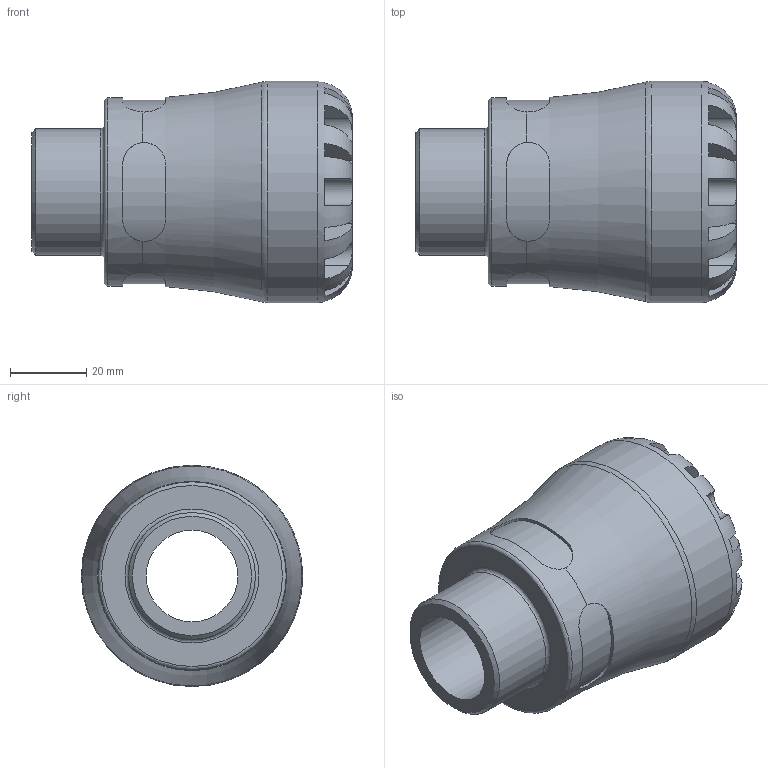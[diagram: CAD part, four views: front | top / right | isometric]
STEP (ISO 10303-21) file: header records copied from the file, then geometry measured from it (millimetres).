
FILE_DESCRIPTION(/* description */ ('PLASSON MALE ADAPTOR 32X1" SERIES 1'),/* implementation_level */ '2;1');
FILE_NAME(/* name */ 'C:\Dropbox\KIMPROJECTS-Inventor\99-16-3568-Processing\S1\1002\100200032010_190200032010.ipt.stp',/* time_stamp */ '2017-07-27T14:39:24+03:00',/* author */ ('KIM'),/* organization */ (''),/* preprocessor_version */ 'ST-DEVELOPER v15.6',/* originating_system */ 'Autodesk Inventor 2015',/* authorisation */ '');
FILE_SCHEMA (('AUTOMOTIVE_DESIGN { 1 0 10303 214 3 1 1 }'));
Length unit declared in the file: millimetre
Products named in the file (1): 100200032010_190200032010
Bounding box: 84 x 58 x 58 mm (x, y, z)
Volume: 100626 mm3; surface area: 25165.8 mm2
Topology: 1 solids, 1 shells, 100 faces, 257 edges, 161 vertices
Faces by surface type: plane 60, cylinder 33, torus 5, cone 2
Full cylindrical faces by diameter (mm): 24 x1, 32 x1, 33.249 x1, 49.3 x1, 58 x1
Entity records: 3770 total; most frequent: CARTESIAN_POINT 1451, ORIENTED_EDGE 484, DIRECTION 462, EDGE_CURVE 242, AXIS2_PLACEMENT_3D 191, VERTEX_POINT 158, EDGE_LOOP 116, FACE_OUTER_BOUND 100
